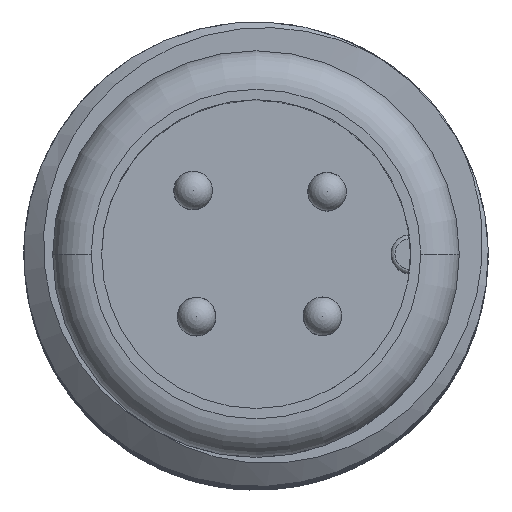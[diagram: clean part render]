
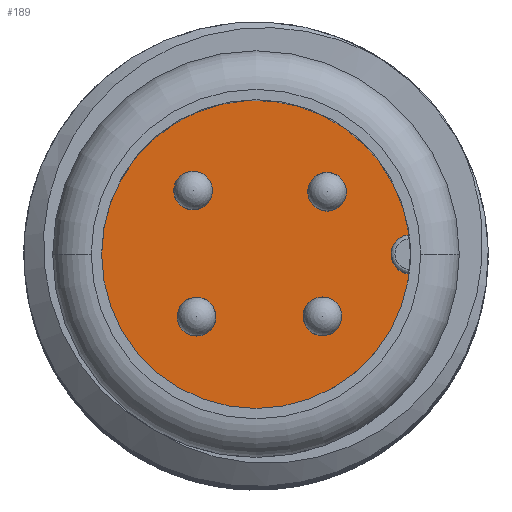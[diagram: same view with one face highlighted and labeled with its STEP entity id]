
A CAD part, top view. The second image highlights one B-rep face of the part: STEP entity #189.
In plain terms, the highlighted planar face has unit normal (0, 0, 1).
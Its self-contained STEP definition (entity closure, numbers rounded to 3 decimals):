
#26 = DIRECTION ( 'NONE',  ( 1., 0., 0. ) ) ;
#138 = CARTESIAN_POINT ( 'NONE',  ( 3.5, 0., 6. ) ) ;
#189 = ADVANCED_FACE ( 'NONE', ( #5752 ), #1033, .T. ) ;
#199 = AXIS2_PLACEMENT_3D ( 'NONE', #2689, #6818, #6906 ) ;
#552 = AXIS2_PLACEMENT_3D ( 'NONE', #3260, #10358, #8392 ) ;
#947 = CARTESIAN_POINT ( 'NONE',  ( 0., 0., 6. ) ) ;
#1013 = VERTEX_POINT ( 'NONE', #138 ) ;
#1021 = CARTESIAN_POINT ( 'NONE',  ( 3.969, 0.499, 6. ) ) ;
#1033 = PLANE ( 'NONE',  #3888 ) ;
#1371 = ORIENTED_EDGE ( 'NONE', *, *, #10077, .T. ) ;
#1642 = DIRECTION ( 'NONE',  ( 1., 0., 0. ) ) ;
#2614 = ORIENTED_EDGE ( 'NONE', *, *, #3672, .T. ) ;
#2689 = CARTESIAN_POINT ( 'NONE',  ( 0., 0., 6. ) ) ;
#2786 = CIRCLE ( 'NONE', #10771, 0.5 ) ;
#3260 = CARTESIAN_POINT ( 'NONE',  ( 4., 0., 6. ) ) ;
#3672 = EDGE_CURVE ( 'NONE', #8529, #12009, #11688, .T. ) ;
#3888 = AXIS2_PLACEMENT_3D ( 'NONE', #947, #5043, #26 ) ;
#4355 = ORIENTED_EDGE ( 'NONE', *, *, #10514, .T. ) ;
#4521 = VERTEX_POINT ( 'NONE', #1021 ) ;
#5043 = DIRECTION ( 'NONE',  ( 0., 0., 1. ) ) ;
#5419 = CARTESIAN_POINT ( 'NONE',  ( -4., 0., 6. ) ) ;
#5623 = CARTESIAN_POINT ( 'NONE',  ( 3.969, -0.499, 6. ) ) ;
#5752 = FACE_OUTER_BOUND ( 'NONE', #8956, .T. ) ;
#5943 = DIRECTION ( 'NONE',  ( 1., 0., 0. ) ) ;
#6818 = DIRECTION ( 'NONE',  ( 0., 0., 1. ) ) ;
#6906 = DIRECTION ( 'NONE',  ( 1., 0., 0. ) ) ;
#8392 = DIRECTION ( 'NONE',  ( 1., 0., 0. ) ) ;
#8529 = VERTEX_POINT ( 'NONE', #5419 ) ;
#8901 = AXIS2_PLACEMENT_3D ( 'NONE', #11829, #11742, #1642 ) ;
#8941 = ORIENTED_EDGE ( 'NONE', *, *, #11444, .T. ) ;
#8956 = EDGE_LOOP ( 'NONE', ( #4355, #2614, #1371, #8941 ) ) ;
#9053 = CIRCLE ( 'NONE', #552, 0.5 ) ;
#9993 = DIRECTION ( 'NONE',  ( 0., 0., -1. ) ) ;
#10031 = CARTESIAN_POINT ( 'NONE',  ( 4., 0., 6. ) ) ;
#10077 = EDGE_CURVE ( 'NONE', #12009, #1013, #9053, .T. ) ;
#10333 = CIRCLE ( 'NONE', #8901, 4. ) ;
#10358 = DIRECTION ( 'NONE',  ( 0., 0., -1. ) ) ;
#10514 = EDGE_CURVE ( 'NONE', #4521, #8529, #10333, .T. ) ;
#10771 = AXIS2_PLACEMENT_3D ( 'NONE', #10031, #9993, #5943 ) ;
#11444 = EDGE_CURVE ( 'NONE', #1013, #4521, #2786, .T. ) ;
#11688 = CIRCLE ( 'NONE', #199, 4. ) ;
#11742 = DIRECTION ( 'NONE',  ( 0., 0., 1. ) ) ;
#11829 = CARTESIAN_POINT ( 'NONE',  ( 0., 0., 6. ) ) ;
#12009 = VERTEX_POINT ( 'NONE', #5623 ) ;
